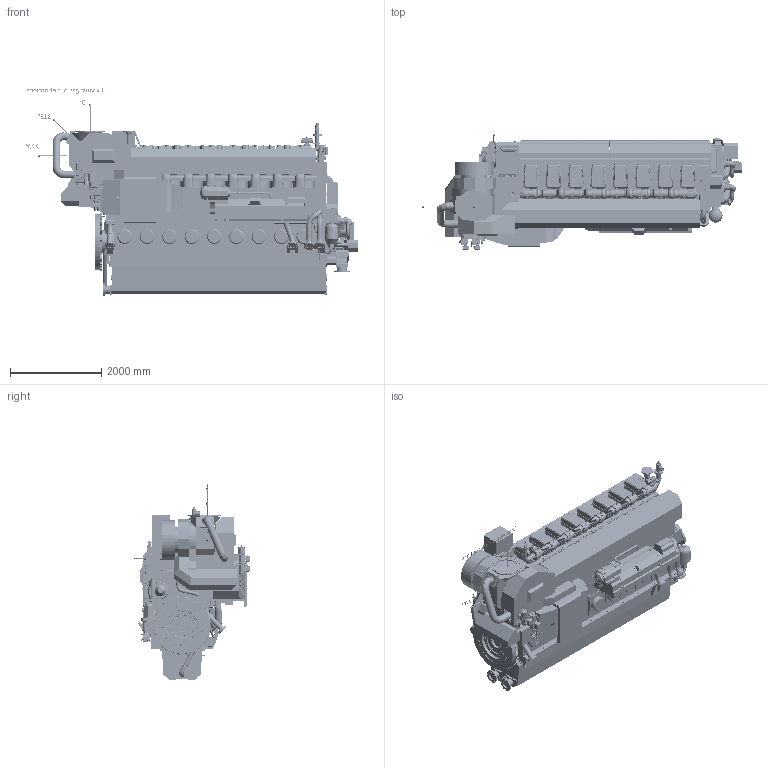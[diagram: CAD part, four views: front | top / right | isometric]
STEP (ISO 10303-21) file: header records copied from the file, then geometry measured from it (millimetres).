
FILE_DESCRIPTION(/* description */ (''),/* implementation_level */ '2;1');
FILE_NAME(/* name */ 'DAAF382153_A.stp',/* time_stamp */ '2021-12-23T11:34:28+02:00',/* author */ (''),/* organization */ (''),/* preprocessor_version */ 'ST-DEVELOPER v16.7',/* originating_system */ 'SIEMENS PLM Software NX 1915',/* authorisation */ '');
FILE_SCHEMA (('AUTOMOTIVE_DESIGN { 1 0 10303 214 3 1 1 1 }'));
Products named in the file (80): PAAE045139-A_STEEL SHEET; PAAF111190-A_LUBE OIL PIPES; PAAF074477--_DRY SUMP; PAAF093490--_LUBE OIL PIPES; PAAF063632--_ENGINE BLOCK; PAAF063781--_COVERS; PAAF074388--_END COVER; PAAF078074--_TURNING DEVICE; PAAF078236--_COVER; PAAF078241--_COVER; PAAF093819--_WATER CONNECTION; PAAF093493--_STARTING AIR SYSTEM; PAAF068478--_AIR BOTTLE; PAAF078633--_BRACKET FOR LT PIPE; PAAF159661--_DRAIN PIPE; PAAF087111--_LEAK FUEL SYSTEM; PAAF087114--_LEAK FUEL SYSTEM; PAAF087136--_LUBRICATING OIL PIPES; PAAF087122--_LEAK FUEL PIPES; PAAF093585--_STARTING AIR PIPES; PAAF087082--_A_LEAK FUEL PIPES; PAAF064319--_COVERS; PAAF238216--_CRANKSHAFT; PAAF243622--_FUEL PIPES; PAAF243689--_AIR VENT SYSTEM; PAAF243686--_CENTRIFUGAL FILTER; PAAF243352--_OIL PIPE; PAAF243671--_PUMP COVER; PAAF243662--_LUBE OIL MODULE; PAAF243367--_GOVERNOR; PAAF247485--_LUBRICATING OIL PUMP; PAAF247479--_FRAME; PAAF261809--_LUBRICATING OIL FILTER; PAAF078620--_LT-WATER PIPES; PAAF078622--_LT-WATER PIPES; PAAF270351--_EQUIPMENT; PAAF271372--_MOTOR; PAAF291916--_INTERMEDIATE GEAR; PAAF397145--_COVERS; PAAF078619--_LT-WATER PIPES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
Assembly tree (107 placements, depth 4):
  DAAF382153_A-Outline drawing
    PABA331455--_Flywheel
    PABA330993--_Turbo options
    PABA331050--_W8L34DFC-TCD-DRY
      PABA135300--_Electrical equipment for lube oil module
      PAAF906204--_SHUT-DOWN MECHANISM
      PAAF675626--_OIL MIST DETECTOR
      PAAF078708--_ACTUATOR
      PAAF074990--_BOOSTER MOTOR
      PABA036862--_Cylinder heads multiducts cylinder liner
      PAAF676811--_CLEANING DEVICE
      PABA065852--_Gas feed pipe from roof
      PAAF619118--_COVERS
      PABA089633--_Gas vent system connecting flange
      PAAF975946--_gas pipe between cylinders  x7
      PAAF975926--_main gas admission valve  x8
      PABA066964--_Double wall gas vent system
      PAAF895907--_COVERS
      PAAF976975--_Cylinder head covers 8L
      PAAF977035--_Electrical equipment for side cover 8L
      PAAF976966--_Covers top shields 8L
      PAAF063770--_COVERS
      PAAF407546--_INSULATING BOX
      PAAF906214--_ELECTRICAL EQUIPMENT
      PAAF909498--_LOCAL CONTROL PANEL
      PAAF906213--_NITROGEN GAS PIPE
      PAAF573269--_COVER PLATE_MODEL
        PAAE045139-A_STEEL SHEET
      PAAF356777-A_BRACKET_MODEL
      PAAF001472-B_BRACKET_MODEL
      PAAF168390-A_ACTUATOR  x2
      PAAF620935--_CHARGE AIR SYSTEM
      PAAF619539--_TURBOCHARGER
      PAAF619521--_WASTEGATE PIPE
      PAAF523155--_Insulation box base part
      PAAF616354--_TURBOCHARGER BRACKET
      PAAF293701--_MULTIDUCT  x8
      PAAF243503--_CYLINDER HEAD  x8
      PAAF555086--_PUMP COVER
      PAAF555085--_PUMP COVER
      PAAF497278--_LUBRICATING OIL PIPES
      PAAF078619--_LT-WATER PIPES
      PAAF397145--_COVERS
      PAAF291916--_INTERMEDIATE GEAR
      PAAF271372--_MOTOR
      PAAF270351--_EQUIPMENT
      PAAF078622--_LT-WATER PIPES
      PAAF078620--_LT-WATER PIPES
      PAAF261809--_LUBRICATING OIL FILTER
      PAAF247479--_FRAME
      PAAF247485--_LUBRICATING OIL PUMP
      PAAF243367--_GOVERNOR
      PAAF243662--_LUBE OIL MODULE
      PAAF243671--_PUMP COVER
      PAAF243352--_OIL PIPE
      PAAF243686--_CENTRIFUGAL FILTER
      PAAF243689--_AIR VENT SYSTEM
      PAAF243622--_FUEL PIPES
      PAAF238216--_CRANKSHAFT
      PAAF064319--_COVERS
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Bounding box: 7271.02 x 2523.4 x 4576.08 mm (x, y, z)
Volume: 17266206501.3 mm3; surface area: 255144989 mm2
Topology: 403 solids, 438 shells, 24724 faces, 63473 edges, 40914 vertices
Faces by surface type: plane 11154, cylinder 6332, bspline 3735, revolution 1279, cone 776, torus 763, extrusion 643, sphere 42
Full cylindrical faces by diameter (mm): 1 x8, 3 x3, 6 x14, 6.75 x3, 7 x35, 8 x57, 8.4 x10, 9 x4, 9.539 x2, 10 x38, 10.2 x18, 10.301 x2, 11 x5, 11.908 x1, 12 x61, 12.3 x1, 13.2 x4, 13.5 x4, 14 x27, 15 x31, 15.5 x36, 15.6 x4, 15.7 x4, 16 x17, 17 x10, 17.5 x6, 18 x150, 18.496 x2, 18.5 x2, 18.555 x14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
Entity records: 796008 total; most frequent: CARTESIAN_POINT 313283, ORIENTED_EDGE 96162, DIRECTION 86241, EDGE_CURVE 48081, VERTEX_POINT 32067, AXIS2_PLACEMENT_3D 29742, VECTOR 26113, LINE 25470
